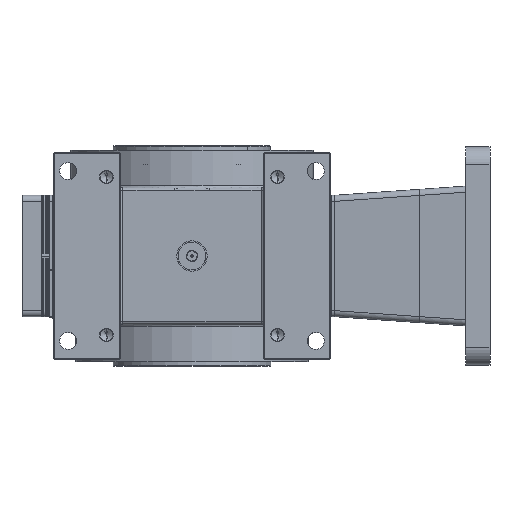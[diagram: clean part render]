
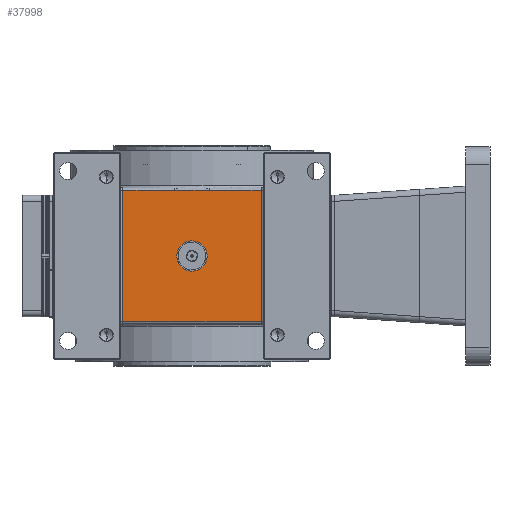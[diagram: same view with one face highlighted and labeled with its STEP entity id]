
A CAD part, front view. The second image highlights one B-rep face of the part: STEP entity #37998.
In plain terms, the highlighted planar face has unit normal (0, -1, 0).
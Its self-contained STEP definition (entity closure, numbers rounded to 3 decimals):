
#323 = CARTESIAN_POINT ( 'NONE',  ( 0., -129., 0. ) ) ;
#2081 = VECTOR ( 'NONE', #28535, 1000. ) ;
#2460 = AXIS2_PLACEMENT_3D ( 'NONE', #65081, #31697, #60456 ) ;
#2537 = EDGE_CURVE ( 'NONE', #23763, #5095, #8546, .T. ) ;
#2853 = VERTEX_POINT ( 'NONE', #40396 ) ;
#3727 = VERTEX_POINT ( 'NONE', #51773 ) ;
#4643 = ORIENTED_EDGE ( 'NONE', *, *, #2537, .T. ) ;
#4776 = CARTESIAN_POINT ( 'NONE',  ( 2.374, -129., 54.127 ) ) ;
#5095 = VERTEX_POINT ( 'NONE', #8861 ) ;
#8546 = LINE ( 'NONE', #38201, #2081 ) ;
#8861 = CARTESIAN_POINT ( 'NONE',  ( 14.248, -129., 54. ) ) ;
#9015 = EDGE_CURVE ( 'NONE', #23014, #2853, #32094, .T. ) ;
#11531 = VECTOR ( 'NONE', #31944, 1000. ) ;
#14781 = CARTESIAN_POINT ( 'NONE',  ( -2.375, -129., 54.127 ) ) ;
#15459 = ORIENTED_EDGE ( 'NONE', *, *, #42007, .T. ) ;
#16610 = ORIENTED_EDGE ( 'NONE', *, *, #44340, .T. ) ;
#17762 = CARTESIAN_POINT ( 'NONE',  ( -57., -129., 54. ) ) ;
#17771 = DIRECTION ( 'NONE',  ( 0., 1., 0. ) ) ;
#19107 = CARTESIAN_POINT ( 'NONE',  ( -9.498, -129., 54.039 ) ) ;
#19242 = EDGE_CURVE ( 'NONE', #29177, #23763, #40562, .T. ) ;
#19309 = DIRECTION ( 'NONE',  ( 0., 0., -1. ) ) ;
#19659 = DIRECTION ( 'NONE',  ( 0., 0., -1. ) ) ;
#19699 = EDGE_CURVE ( 'NONE', #2853, #23014, #21578, .T. ) ;
#20923 = ORIENTED_EDGE ( 'NONE', *, *, #9015, .F. ) ;
#21463 = CARTESIAN_POINT ( 'NONE',  ( -114., -129., 56. ) ) ;
#21578 = CIRCLE ( 'NONE', #2460, 12.5 ) ;
#22582 = VECTOR ( 'NONE', #44863, 1000. ) ;
#22783 = DIRECTION ( 'NONE',  ( 0., 0., 1. ) ) ;
#22978 = VERTEX_POINT ( 'NONE', #17762 ) ;
#23014 = VERTEX_POINT ( 'NONE', #64362 ) ;
#23763 = VERTEX_POINT ( 'NONE', #64512 ) ;
#24226 = ORIENTED_EDGE ( 'NONE', *, *, #25195, .T. ) ;
#25195 = EDGE_CURVE ( 'NONE', #57252, #29177, #52580, .T. ) ;
#28535 = DIRECTION ( 'NONE',  ( -1., 0., 0. ) ) ;
#29177 = VERTEX_POINT ( 'NONE', #62342 ) ;
#29376 = VECTOR ( 'NONE', #36418, 1000. ) ;
#29769 = CARTESIAN_POINT ( 'NONE',  ( 14.248, -129., 54. ) ) ;
#30095 = CARTESIAN_POINT ( 'NONE',  ( -4.749, -129., 54.103 ) ) ;
#30105 = ORIENTED_EDGE ( 'NONE', *, *, #19699, .F. ) ;
#31284 = AXIS2_PLACEMENT_3D ( 'NONE', #21463, #17771, #22783 ) ;
#31697 = DIRECTION ( 'NONE',  ( 0., -1., 0. ) ) ;
#31944 = DIRECTION ( 'NONE',  ( 1., 0., 0. ) ) ;
#32094 = CIRCLE ( 'NONE', #61844, 12.5 ) ;
#32442 = FACE_OUTER_BOUND ( 'NONE', #59130, .T. ) ;
#34457 = CARTESIAN_POINT ( 'NONE',  ( -11.873, -129., 54. ) ) ;
#35776 = CARTESIAN_POINT ( 'NONE',  ( -114., -129., 54. ) ) ;
#36418 = DIRECTION ( 'NONE',  ( -1., 0., 0. ) ) ;
#36836 = CARTESIAN_POINT ( 'NONE',  ( -57., -129., -54. ) ) ;
#37763 = PLANE ( 'NONE',  #31284 ) ;
#37998 = ADVANCED_FACE ( 'NONE', ( #32442, #57096 ), #37763, .F. ) ;
#38201 = CARTESIAN_POINT ( 'NONE',  ( -114., -129., 54. ) ) ;
#39944 = EDGE_CURVE ( 'NONE', #3727, #22978, #61704, .T. ) ;
#40396 = CARTESIAN_POINT ( 'NONE',  ( 0., -129., 12.5 ) ) ;
#40562 = LINE ( 'NONE', #61503, #22582 ) ;
#42007 = EDGE_CURVE ( 'NONE', #22978, #57252, #54971, .T. ) ;
#42807 = EDGE_LOOP ( 'NONE', ( #20923, #30105 ) ) ;
#44340 = EDGE_CURVE ( 'NONE', #5095, #3727, #47929, .T. ) ;
#44615 = DIRECTION ( 'NONE',  ( 0., -1., 0. ) ) ;
#44863 = DIRECTION ( 'NONE',  ( 0., 0., 1. ) ) ;
#45609 = CARTESIAN_POINT ( 'NONE',  ( -57., -129., 56. ) ) ;
#47929 = B_SPLINE_CURVE_WITH_KNOTS ( 'NONE', 3,
 ( #29769, #60405, #64714, #50399, #4776, #14781, #30095, #19107, #34457, #54756 ),
 .UNSPECIFIED., .F., .F.,
 ( 4, 2, 2, 2, 4 ),
 ( 0., 0.007, 0.014, 0.021, 0.028 ),
 .UNSPECIFIED. ) ;
#50399 = CARTESIAN_POINT ( 'NONE',  ( 4.749, -129., 54.103 ) ) ;
#51306 = ORIENTED_EDGE ( 'NONE', *, *, #39944, .T. ) ;
#51773 = CARTESIAN_POINT ( 'NONE',  ( -14.248, -129., 54. ) ) ;
#52580 = LINE ( 'NONE', #61896, #11531 ) ;
#54756 = CARTESIAN_POINT ( 'NONE',  ( -14.248, -129., 54. ) ) ;
#54971 = LINE ( 'NONE', #45609, #65700 ) ;
#57096 = FACE_BOUND ( 'NONE', #42807, .T. ) ;
#57252 = VERTEX_POINT ( 'NONE', #36836 ) ;
#59130 = EDGE_LOOP ( 'NONE', ( #60038, #4643, #16610, #51306, #15459, #24226 ) ) ;
#60038 = ORIENTED_EDGE ( 'NONE', *, *, #19242, .T. ) ;
#60405 = CARTESIAN_POINT ( 'NONE',  ( 11.873, -129., 54. ) ) ;
#60456 = DIRECTION ( 'NONE',  ( 0., 0., -1. ) ) ;
#61503 = CARTESIAN_POINT ( 'NONE',  ( 57., -129., 56. ) ) ;
#61704 = LINE ( 'NONE', #35776, #29376 ) ;
#61844 = AXIS2_PLACEMENT_3D ( 'NONE', #323, #44615, #19309 ) ;
#61896 = CARTESIAN_POINT ( 'NONE',  ( 59., -129., -54. ) ) ;
#62342 = CARTESIAN_POINT ( 'NONE',  ( 57., -129., -54. ) ) ;
#64362 = CARTESIAN_POINT ( 'NONE',  ( 0., -129., -12.5 ) ) ;
#64512 = CARTESIAN_POINT ( 'NONE',  ( 57., -129., 54. ) ) ;
#64714 = CARTESIAN_POINT ( 'NONE',  ( 9.498, -129., 54.039 ) ) ;
#65081 = CARTESIAN_POINT ( 'NONE',  ( 0., -129., 0. ) ) ;
#65700 = VECTOR ( 'NONE', #19659, 1000. ) ;
